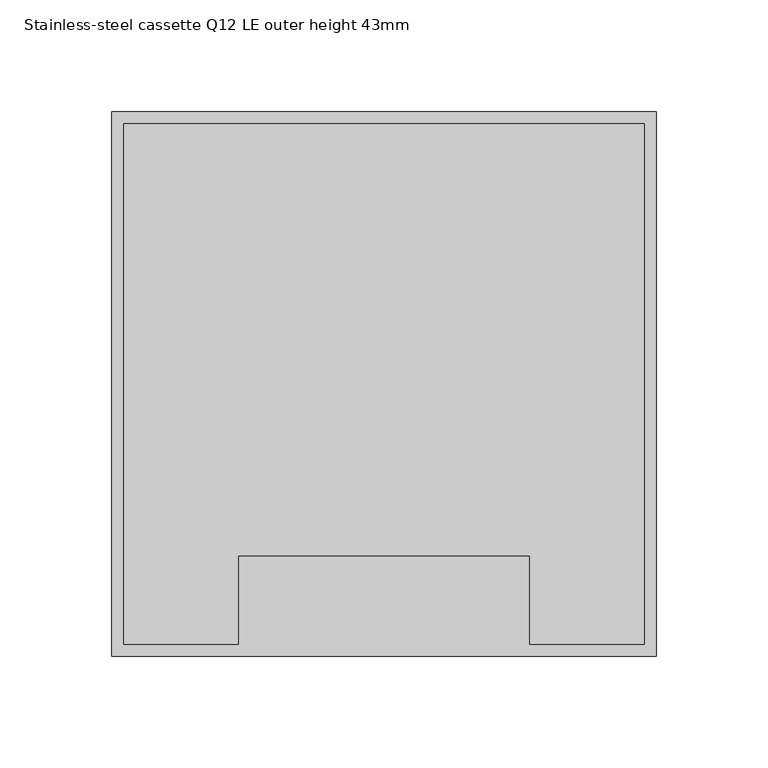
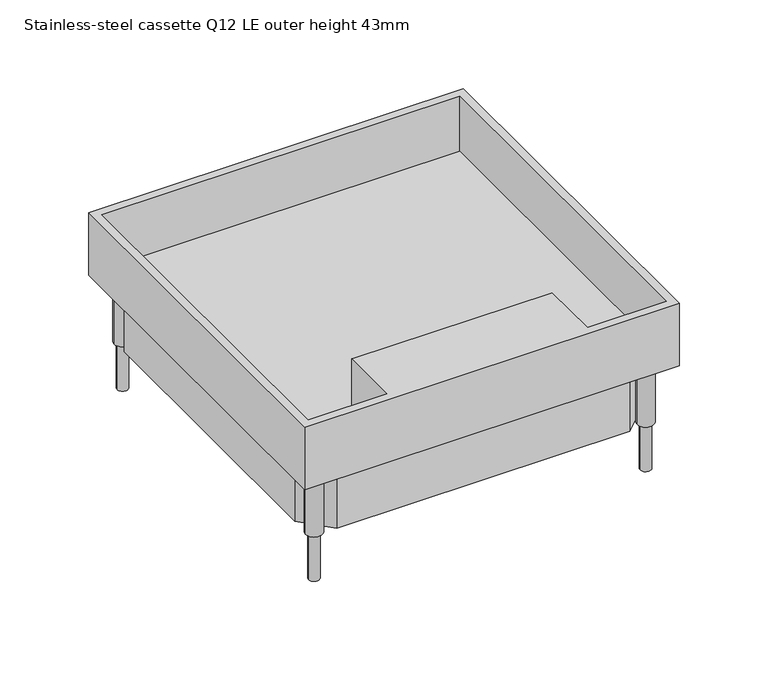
"""IFC4 building model written with IfcOpenShell, lengths in millimetres: proxy geometry, Electrical_Installation_Hager_VE-EE_EKQ-Height-adjustable-stainless-steel-cassette-with-cable-outlet-square-for-dry-cleaned-floors : Stainless-steel cassette Q12 LE outer height 43mm."""

from ifc_helpers import new_model, si_unit, point, frame, frame_2d, origin, place, context, project, spatial, polyline, circle_curve, trimmed, segment, composite_curve, outline, extrude, source, transform, mapped, element, save


def stainless_steel_cassette_q12_le_outer_height_43mm_76769e65(model_context):
    return source(origin(), model_context, "Body", "SweptSolid", [
        extrude(outline(composite_curve([segment(trimmed(circle_curve(frame_2d((-108.0, 108.0)), 3.5), [point((-111.5, 108.0))], [point((-104.5, 108.0))], False, "CARTESIAN"), True, "CONTINUOUS"), segment(trimmed(circle_curve(frame_2d((-108.0, 108.0)), 3.5), [point((-104.5, 108.0))], [point((-111.5, 108.0))], False, "CARTESIAN"), True, "CONTINUOUS")], self_intersect=False)), frame((0.0, 0.0, -115.0), z_axis=(0.0, 0.0, 1.0), x_axis=(1.0, 0.0, 0.0)), (0.0, 0.0, 1.0), 32.0011554),
        extrude(outline(composite_curve([segment(trimmed(circle_curve(frame_2d((108.0, 108.0)), 3.5), [point((104.5, 108.0))], [point((111.5, 108.0))], False, "CARTESIAN"), True, "CONTINUOUS"), segment(trimmed(circle_curve(frame_2d((108.0, 108.0)), 3.5), [point((111.5, 108.0))], [point((104.5, 108.0))], False, "CARTESIAN"), True, "CONTINUOUS")], self_intersect=False)), frame((0.0, 0.0, -115.0), z_axis=(0.0, 0.0, 1.0), x_axis=(1.0, 0.0, 0.0)), (0.0, 0.0, 1.0), 32.0011554),
        extrude(outline(composite_curve([segment(trimmed(circle_curve(frame_2d((108.0, -108.0)), 3.523354), [point((104.476646, -108.0))], [point((111.523354, -108.0))], False, "CARTESIAN"), True, "CONTINUOUS"), segment(trimmed(circle_curve(frame_2d((108.0, -108.0)), 3.523354), [point((111.523354, -108.0))], [point((104.476646, -108.0))], False, "CARTESIAN"), True, "CONTINUOUS")], self_intersect=False)), frame((0.0, 0.0, -115.0), z_axis=(0.0, 0.0, 1.0), x_axis=(1.0, 0.0, 0.0)), (0.0, 0.0, 1.0), 32.0011554),
        extrude(outline(composite_curve([segment(trimmed(circle_curve(frame_2d((-108.0, -108.0)), 3.5), [point((-111.5, -108.0))], [point((-104.5, -108.0))], False, "CARTESIAN"), True, "CONTINUOUS"), segment(trimmed(circle_curve(frame_2d((-108.0, -108.0)), 3.5), [point((-104.5, -108.0))], [point((-111.5, -108.0))], False, "CARTESIAN"), True, "CONTINUOUS")], self_intersect=False)), frame((0.0, 0.0, -115.0), z_axis=(0.0, 0.0, 1.0), x_axis=(1.0, 0.0, 0.0)), (0.0, 0.0, 1.0), 32.0011554),
        extrude(outline(polyline([(4.7, 113.0), (95.3639966, 113.0), (113.0, 96.0470649), (113.0, -95.1394213), (94.7984665, -113.0), (-95.867755, -113.0), (-113.0, -95.1801256), (-113.0, 97.543544), (-95.6272863, 113.0), (4.7, 113.0)]), holes=[polyline([(-110.0, 96.3642535), (-110.0, -94.134929), (-94.4180331, -110.0), (93.4123304, -110.0), (110.0, -94.0355815), (110.0, 94.9312235), (93.9906502, 110.0), (4.7, 110.0), (-94.3203352, 110.0), (-110.0, 96.3642535)])]), frame((0.0, 0.0, -82.0), z_axis=(0.0, 0.0, 1.0), x_axis=(1.0, 0.0, 0.0)), (0.0, 0.0, 1.0), 41.0),
        extrude(outline(polyline([(116.5, 116.5), (116.5, -116.5), (-116.5, -116.5), (-116.5, 116.5), (116.5, 116.5)])), frame((0.0, 0.0, -41.0), z_axis=(0.0, 0.0, 1.0), x_axis=(1.0, 0.0, 0.0)), (0.0, 0.0, 1.0), 5.0),
        extrude(outline(composite_curve([segment(trimmed(circle_curve(frame_2d((-108.0, 108.0)), 5.5), [point((-113.5, 108.0))], [point((-102.5, 108.0))], False, "CARTESIAN"), True, "CONTINUOUS"), segment(trimmed(circle_curve(frame_2d((-108.0, 108.0)), 5.5), [point((-102.5, 108.0))], [point((-113.5, 108.0))], False, "CARTESIAN"), True, "CONTINUOUS")], self_intersect=False)), frame((0.0, 0.0, -82.9988446), z_axis=(0.0, 0.0, 1.0), x_axis=(1.0, 0.0, 0.0)), (0.0, 0.0, 1.0), 41.9988446),
        extrude(outline(composite_curve([segment(trimmed(circle_curve(frame_2d((108.0, 108.0)), 5.5), [point((102.5, 108.0))], [point((113.5, 108.0))], False, "CARTESIAN"), True, "CONTINUOUS"), segment(trimmed(circle_curve(frame_2d((108.0, 108.0)), 5.5), [point((113.5, 108.0))], [point((102.5, 108.0))], False, "CARTESIAN"), True, "CONTINUOUS")], self_intersect=False)), frame((0.0, 0.0, -82.9988446), z_axis=(0.0, 0.0, 1.0), x_axis=(1.0, 0.0, 0.0)), (0.0, 0.0, 1.0), 41.9988446),
        extrude(outline(composite_curve([segment(trimmed(circle_curve(frame_2d((-108.0, -108.0)), 5.5), [point((-113.5, -108.0))], [point((-102.5, -108.0))], False, "CARTESIAN"), True, "CONTINUOUS"), segment(trimmed(circle_curve(frame_2d((-108.0, -108.0)), 5.5), [point((-102.5, -108.0))], [point((-113.5, -108.0))], False, "CARTESIAN"), True, "CONTINUOUS")], self_intersect=False)), frame((0.0, 0.0, -82.9988446), z_axis=(0.0, 0.0, 1.0), x_axis=(1.0, 0.0, 0.0)), (0.0, 0.0, 1.0), 41.9988446),
        extrude(outline(composite_curve([segment(trimmed(circle_curve(frame_2d((108.0, -108.0)), 5.5), [point((102.5, -108.0))], [point((113.5, -108.0))], False, "CARTESIAN"), True, "CONTINUOUS"), segment(trimmed(circle_curve(frame_2d((108.0, -108.0)), 5.5), [point((113.5, -108.0))], [point((102.5, -108.0))], False, "CARTESIAN"), True, "CONTINUOUS")], self_intersect=False)), frame((0.0, 0.0, -82.9988446), z_axis=(0.0, 0.0, 1.0), x_axis=(1.0, 0.0, 0.0)), (0.0, 0.0, 1.0), 41.9988446),
        extrude(outline(polyline([(122.0, 122.0), (122.0, -122.0), (-122.0, -122.0), (-122.0, 122.0), (122.0, 122.0)]), holes=[polyline([(116.5, 116.5), (-116.5, 116.5), (-116.5, -116.5), (-65.3360621, -116.5), (-65.3360621, -76.863938), (65.3360621, -76.863938), (65.3360621, -116.5), (116.5, -116.5), (116.5, 116.5)])]), frame((0.0, 0.0, -41.0), z_axis=(0.0, 0.0, 1.0), x_axis=(1.0, 0.0, 0.0)), (0.0, 0.0, 1.0), 43.0),
    ])


if __name__ == "__main__":
    model = new_model("IFC4")
    model_context = context("Model", 3, world=origin())
    ifc_project = project(units=[si_unit("LENGTHUNIT", "METRE", prefix="MILLI")], contexts=[model_context])
    site = spatial("IfcSite", under=ifc_project)
    building = spatial("IfcBuilding", under=site)
    placement = place(None, origin())
    stainless_steel_cassette_q12_le_outer_height_43mm_shape = stainless_steel_cassette_q12_le_outer_height_43mm_76769e65(model_context)
    element("IfcBuildingElementProxy", 1, Name="Electrical_Installation_Hager_VE-EE_EKQ-Height-adjustable-stainless-steel-cassette-with-cable-outlet-square-for-dry-cleaned-floors : Stainless-steel cassette Q12 LE outer height 43mm", ObjectType="Electrical_Installation_Hager_VE-EE_EKQ-Height-adjustable-stainless-steel-cassette-with-cable-outlet-square-for-dry-cleaned-floors : Stainless-steel cassette Q12 LE outer height 43mm", at=placement, inside=building, context=model_context, shape_type="MappedRepresentation", body=[
        mapped(stainless_steel_cassette_q12_le_outer_height_43mm_shape, transform((0.0, 0.0, 0.0), x_axis=(1.0, 0.0, 0.0), y_axis=(0.0, 1.0, 0.0), z_axis=(0.0, 0.0, 1.0))),
    ])
    save(model, "model.ifc")
